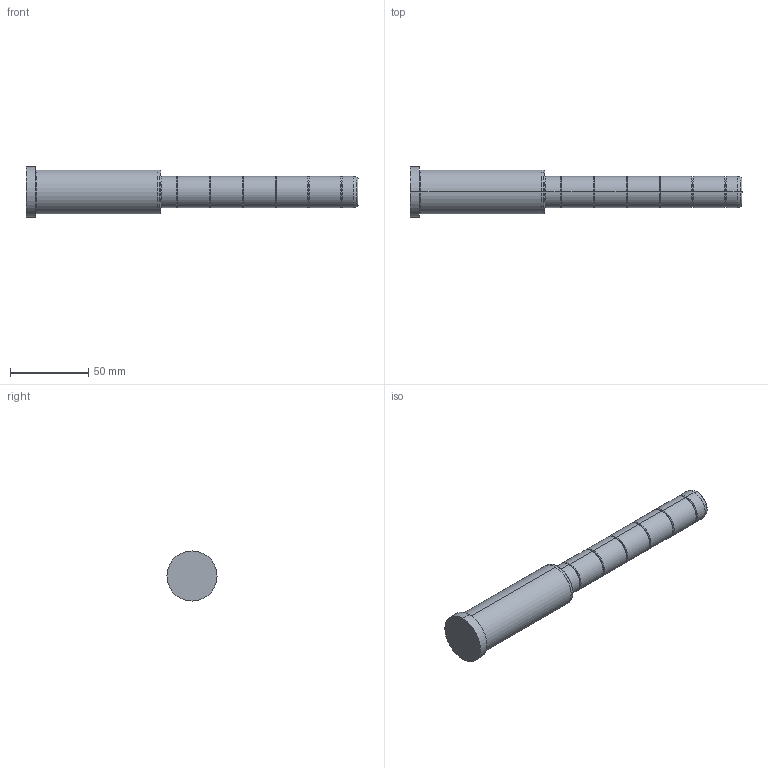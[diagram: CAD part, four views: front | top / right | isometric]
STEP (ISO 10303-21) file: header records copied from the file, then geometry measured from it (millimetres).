
FILE_DESCRIPTION( ( 'STEP AP203' ), '1' );
FILE_NAME( 'C:/Projects/D02 - 20x86x126.step', '2003-01-04T13:47:21', ( ' ' ), ( ' ' ), 'XStep 1.0', ' ', ' ' );
FILE_SCHEMA( ( 'CONFIG_CONTROL_DESIGN' ) );
Length unit declared in the file: metre
Products named in the file (1): 1
Bounding box: 212 x 32 x 32 mm (x, y, z)
Volume: 93505 mm3; surface area: 17266.1 mm2
Topology: 1 solids, 1 shells, 60 faces, 118 edges, 64 vertices
Faces by surface type: bspline 34, revolution 26
Entity records: 1919 total; most frequent: CARTESIAN_POINT 817, ORIENTED_EDGE 236, DIRECTION 182, EDGE_CURVE 118, AXIS2_PLACEMENT_3D 65, EDGE_LOOP 64, VERTEX_POINT 64, CIRCLE 64
